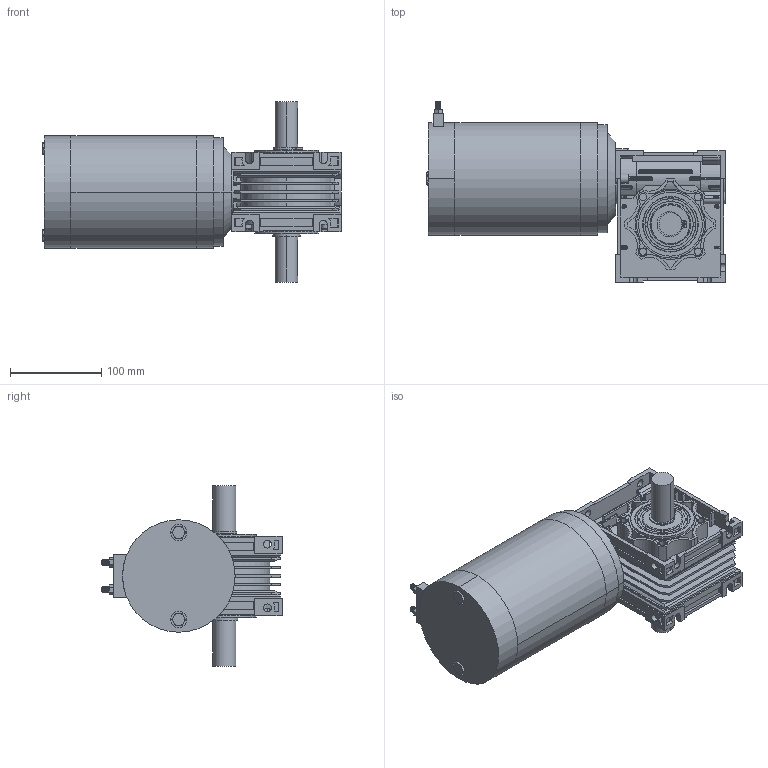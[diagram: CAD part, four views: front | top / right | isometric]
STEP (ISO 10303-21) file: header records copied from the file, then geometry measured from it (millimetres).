
FILE_DESCRIPTION (( 'STEP AP214' ), '1' );
FILE_NAME ('WG1188-050-SHAFT.STEP', '2018-10-16T08:01:23', ( 'Sky123.Org' ), ( 'Sky123.Org' ), 'SwSTEP 2.0', 'SolidWorks 2015', '' );
FILE_SCHEMA (( 'AUTOMOTIVE_DESIGN' ));
Length unit declared in the file: millimetre
Products named in the file (7): circlip for shafts heavy_din_Circlip DIN 471 - 24 x 1.75; WG1188 SHAFT; WG050 翔瑋-NEW; M1188R; hex set screw cone point_din_DIN 564 - M10 x 20 --- N; WG1188-050-SHAFT
Assembly tree (7 placements, depth 3):
  WG1188-050-SHAFT
    M1188R
      M1188R
      hex set screw cone point_din_DIN 564 - M10 x 20 --- N  x2
    WG050 翔瑋-NEW
    WG1188 SHAFT
    circlip for shafts heavy_din_Circlip DIN 471 - 24 x 1.75
Bounding box: 327.37 x 198 x 198 mm (x, y, z)
Volume: 3434393.2 mm3; surface area: 390077.1 mm2
Topology: 12 solids, 49 shells, 1762 faces, 4516 edges, 2878 vertices
Faces by surface type: plane 848, cylinder 731, torus 78, cone 40, sphere 36, bspline 29
Entity records: 64920 total; most frequent: CARTESIAN_POINT 18522, DIRECTION 9148, ORIENTED_EDGE 8836, EDGE_CURVE 4418, AXIS2_PLACEMENT_3D 3334, VERTEX_POINT 2846, LINE 2480, VECTOR 2480
